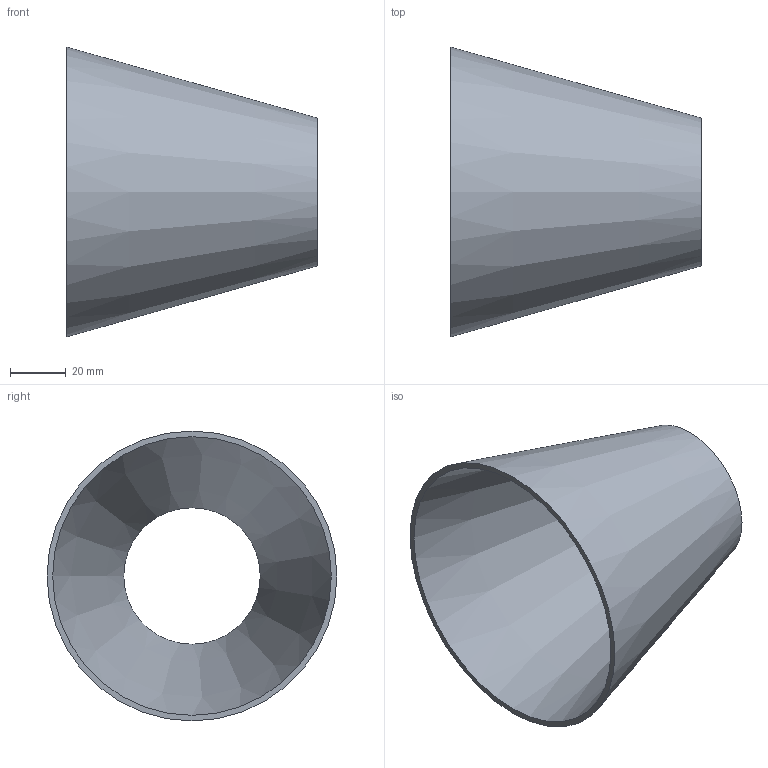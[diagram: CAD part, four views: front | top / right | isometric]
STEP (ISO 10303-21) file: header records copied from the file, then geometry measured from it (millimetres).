
FILE_DESCRIPTION(('FreeCAD Model'),'2;1');
FILE_NAME( '/home/martin/Documents/proyect/accesorios/stp/red-con_DN100-50.step', '2017-12-31T12:23:43',('Author'),(''), 'Open CASCADE STEP processor 6.8','FreeCAD','Unknown');
FILE_SCHEMA(('AUTOMOTIVE_DESIGN_CC2 { 1 2 10303 214 -1 1 5 4 }'));
Length unit declared in the file: millimetre
Products named in the file (1): red-con_DN100-50
Bounding box: 90 x 104 x 104 mm (x, y, z)
Volume: 43259.7 mm3; surface area: 45923.9 mm2
Topology: 1 solids, 1 shells, 4 faces, 6 edges, 4 vertices
Faces by surface type: cone 2, plane 2
Entity records: 191 total; most frequent: CARTESIAN_POINT 33, DIRECTION 26, ORIENTED_EDGE 12, PCURVE 12, DEFINITIONAL_REPRESENTATION 12, AXIS2_PLACEMENT_3D 9, CIRCLE 8, FACE_BOUND 6
